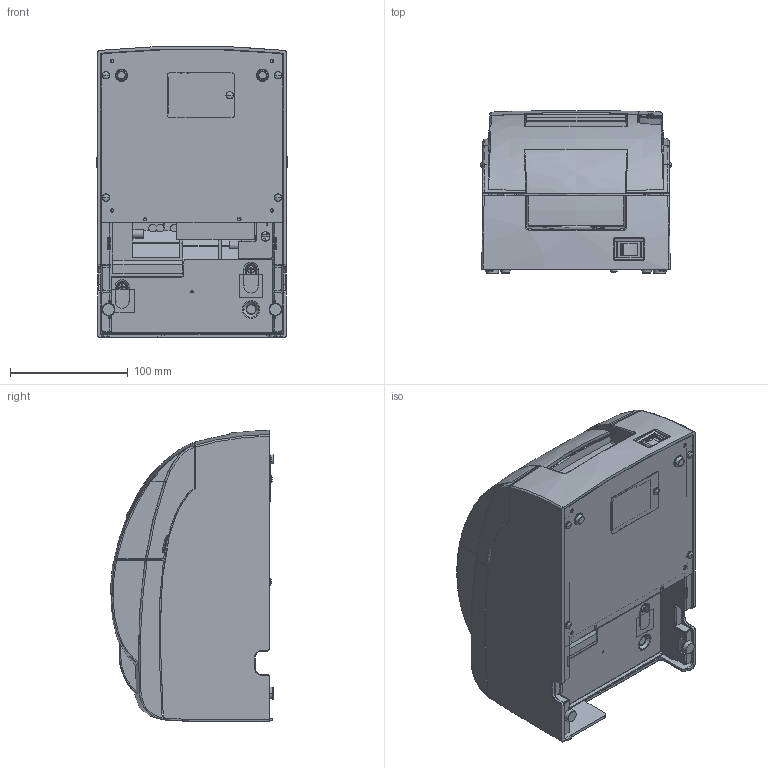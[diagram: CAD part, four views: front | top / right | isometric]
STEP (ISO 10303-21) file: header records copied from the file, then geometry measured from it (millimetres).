
FILE_DESCRIPTION((''),'2;1');
FILE_NAME('TM-U220IID_CLOSE','2024-12-26T14:12:18',('5012938'),(''),'CREO PARAMETRIC BY PTC INC, 2022281','CREO PARAMETRIC BY PTC INC, 2022281','');
FILE_SCHEMA(('AUTOMOTIVE_DESIGN { 1 0 10303 214 1 1 1 1 }'));
Products named in the file (1): TM-U220IID_CLOSE
Bounding box: 162.5 x 138.46 x 247.57 mm (x, y, z)
Surface area: 594449.8 mm2 (no closed solid volume)
Topology: 0 solids, 61 shells, 4615 faces, 13343 edges, 8665 vertices
Faces by surface type: plane 2327, cylinder 1491, bspline 409, cone 155, extrusion 112, torus 79, sphere 42
Entity records: 192675 total; most frequent: CARTESIAN_POINT 74003, ORIENTED_EDGE 25401, DIRECTION 23063, EDGE_CURVE 13325, VERTEX_POINT 8665, VECTOR 8211, LINE 8099, AXIS2_PLACEMENT_3D 7426
